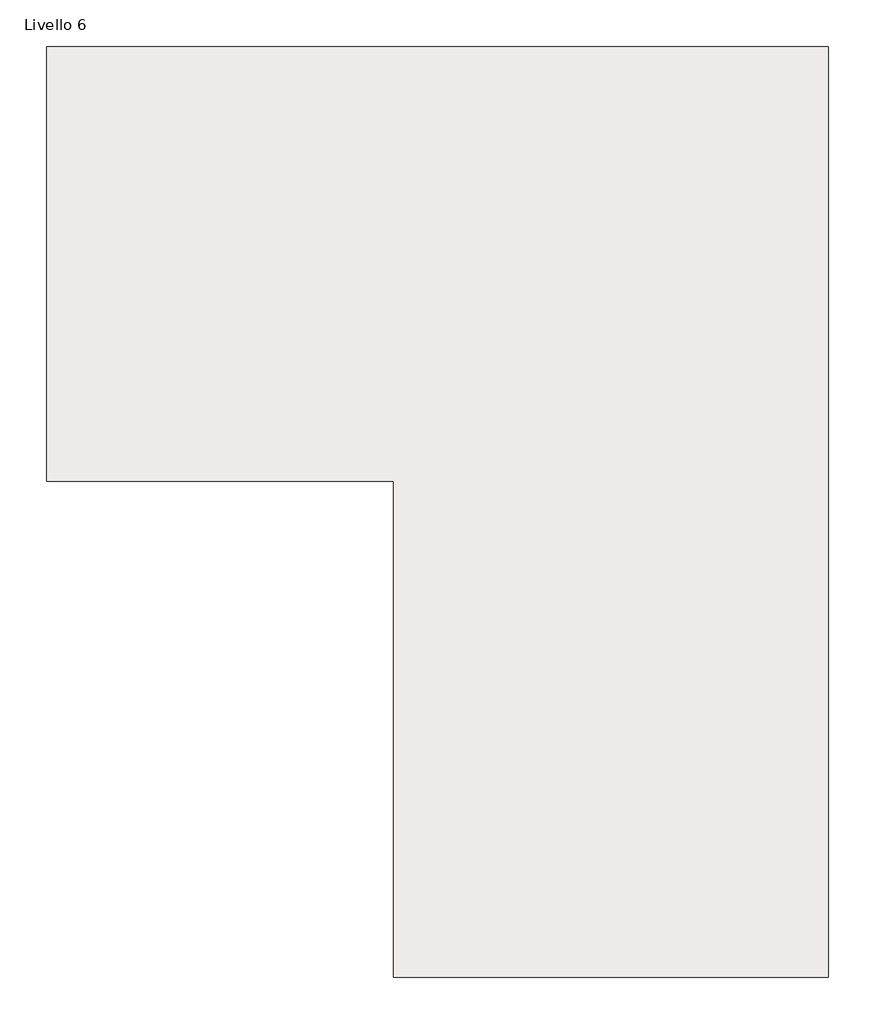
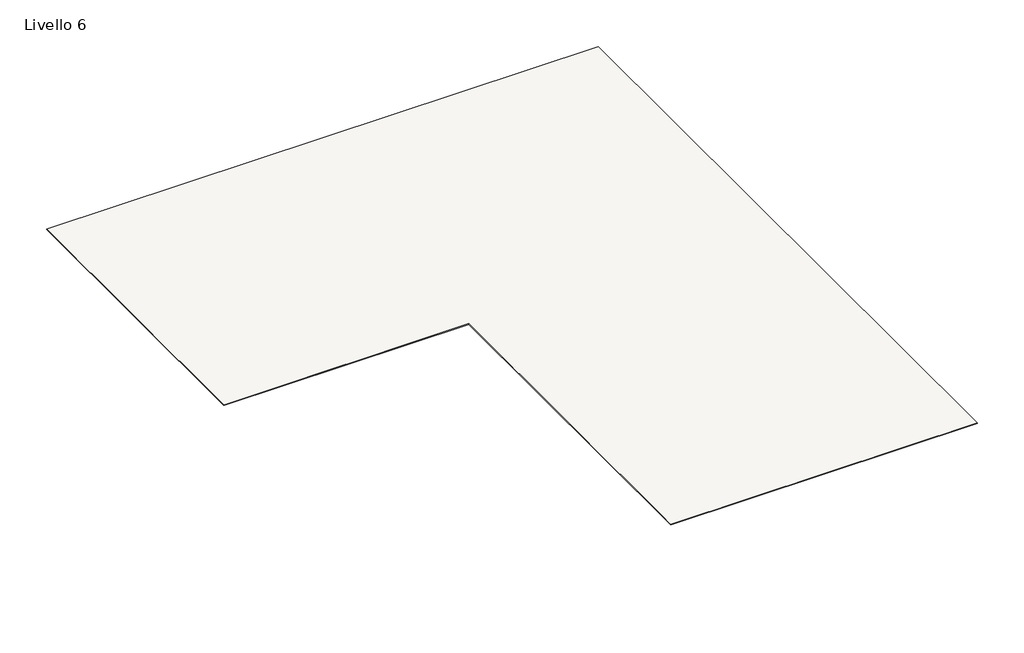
# One storey: 1 slab.
"""IFC4 building model written with IfcOpenShell, lengths in millimetres."""

from ifc_helpers import new_model, si_unit, frame, origin, place, context, project, spatial, polyline, outline, extrude, element, save

model = new_model("IFC4")

# Units and contexts
model_context = context("Model", 3, world=origin())
ifc_project = project(units=[si_unit("LENGTHUNIT", "METRE", prefix="MILLI")], contexts=[model_context])

# Site, building, storey
site = spatial("IfcSite", under=ifc_project)
building = spatial("IfcBuilding", under=site)
storey = spatial("IfcBuildingStorey", under=building, Name="Livello 6", Elevation=-2479.0)

# Slab
placement = place(None, origin())
element("IfcSlab", 1, ObjectType="BI MORTAR LEVELLING SEAL VOLTECO", at=placement, inside=storey, context=model_context, shape_type="SweptSolid", body=[
    extrude(outline(polyline([(10251.1031791, 9007.648913), (10251.1031791, -9750.351087), (1493.1031791, -9750.351087), (1493.1031791, 249.648913), (-5506.8968209, 249.648913), (-5506.8968209, 9007.648913), (10251.1031791, 9007.648913)])), frame((0.0, 0.0, -2479.0), z_axis=(0.0, 0.0, 1.0), x_axis=(1.0, 0.0, 0.0)), (0.0, 0.0, 1.0), 20.0),
])

save(model, "model.ifc")
